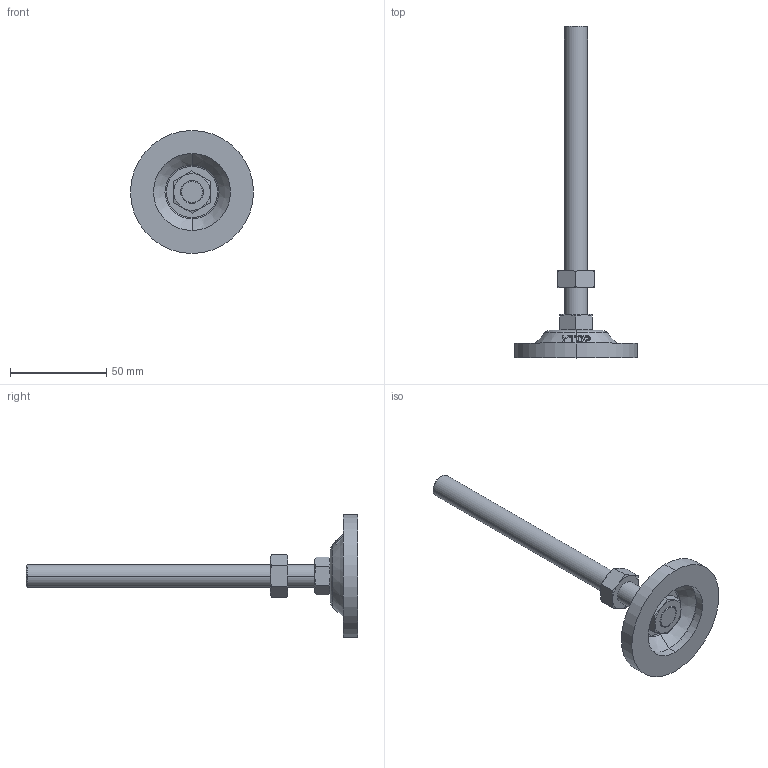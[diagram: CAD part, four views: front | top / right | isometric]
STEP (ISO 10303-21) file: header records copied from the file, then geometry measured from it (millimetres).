
FILE_DESCRIPTION (( 'STEP AP203' ), '1' );
FILE_NAME ('P-64-12150-BR.STEP', '2020-09-10T08:55:26', ( '' ), ( '' ), 'SwSTEP 2.0', 'SolidWorks 2016', '' );
FILE_SCHEMA (( 'CONFIG_CONTROL_DESIGN' ));
Length unit declared in the file: millimetre
Products named in the file (5): 傲郈蹟裝M12炵蹈_M12X150; 脚垫调节六角螺母M12; 脚垫锁紧六角薄螺母M12; P-64-1菁釱-3P; P-64-12150-BR
Assembly tree (4 placements, depth 2):
  P-64-12150-BR
    P-64-1菁釱-3P
    傲郈蹟裝M12炵蹈_M12X150
    脚垫锁紧六角薄螺母M12
    脚垫调节六角螺母M12
Bounding box: 64 x 172.6 x 64 mm (x, y, z)
Volume: 42020.6 mm3; surface area: 24805.1 mm2
Topology: 5 solids, 5 shells, 158 faces, 360 edges, 224 vertices
Faces by surface type: cone 56, bspline 38, plane 34, cylinder 20, torus 10
Entity records: 8568 total; most frequent: CARTESIAN_POINT 4864, ORIENTED_EDGE 720, DIRECTION 546, EDGE_CURVE 360, AXIS2_PLACEMENT_3D 241, VERTEX_POINT 224, B_SPLINE_CURVE_WITH_KNOTS 182, EDGE_LOOP 178
